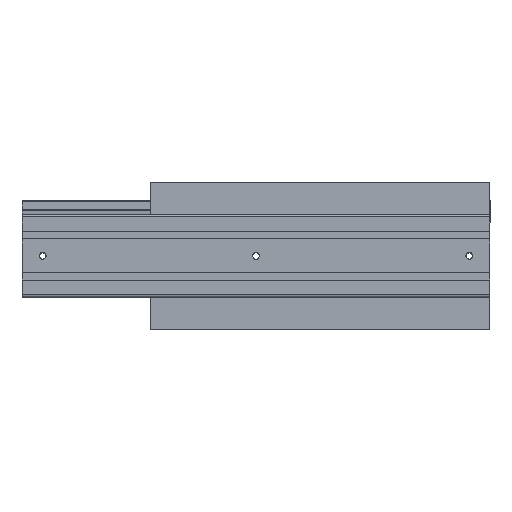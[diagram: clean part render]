
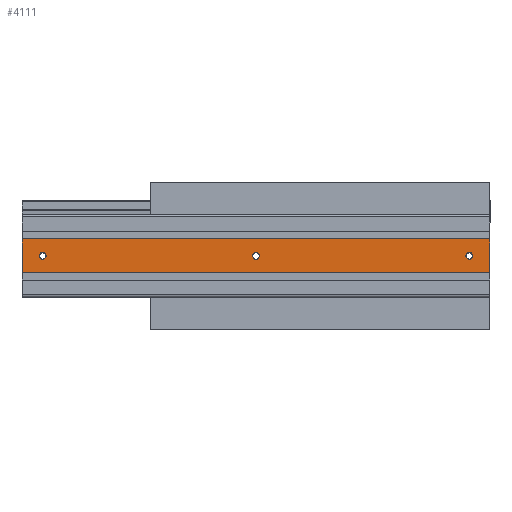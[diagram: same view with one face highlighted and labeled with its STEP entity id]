
A CAD part, top view. The second image highlights one B-rep face of the part: STEP entity #4111.
In plain terms, the highlighted planar face has unit normal (0, 0, 1).
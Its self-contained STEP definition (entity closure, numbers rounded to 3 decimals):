
#562 = VERTEX_POINT ( 'NONE', #22411 ) ;
#769 = DIRECTION ( 'NONE',  ( 0., 0., 1. ) ) ;
#780 = CARTESIAN_POINT ( 'NONE',  ( 236.25, -45., 142.5 ) ) ;
#1267 = VERTEX_POINT ( 'NONE', #5815 ) ;
#1557 = AXIS2_PLACEMENT_3D ( 'NONE', #18101, #5284, #20238 ) ;
#1893 = VECTOR ( 'NONE', #23671, 1000. ) ;
#2335 = CARTESIAN_POINT ( 'NONE',  ( 255., -63.35, 142.5 ) ) ;
#2416 = ORIENTED_EDGE ( 'NONE', *, *, #25800, .F. ) ;
#2505 = DIRECTION ( 'NONE',  ( 0., 0., 1. ) ) ;
#2555 = VERTEX_POINT ( 'NONE', #20384 ) ;
#3042 = CARTESIAN_POINT ( 'NONE',  ( -228.75, -45., 142.5 ) ) ;
#3114 = PLANE ( 'NONE',  #13378 ) ;
#3200 = CARTESIAN_POINT ( 'NONE',  ( -232.5, -45., 142.5 ) ) ;
#3534 = CARTESIAN_POINT ( 'NONE',  ( 232.5, -45., 142.5 ) ) ;
#4111 = ADVANCED_FACE ( 'NONE', ( #14929, #18636, #12916, #7249 ), #3114, .F. ) ;
#4326 = AXIS2_PLACEMENT_3D ( 'NONE', #15299, #2505, #17458 ) ;
#4335 = EDGE_CURVE ( 'NONE', #5888, #12835, #8224, .T. ) ;
#4582 = LINE ( 'NONE', #22873, #26673 ) ;
#5215 = ORIENTED_EDGE ( 'NONE', *, *, #12558, .F. ) ;
#5284 = DIRECTION ( 'NONE',  ( 0., 0., 1. ) ) ;
#5349 = DIRECTION ( 'NONE',  ( 1., 0., 0. ) ) ;
#5361 = VECTOR ( 'NONE', #19601, 1000. ) ;
#5675 = DIRECTION ( 'NONE',  ( 1., 0., 0. ) ) ;
#5711 = CARTESIAN_POINT ( 'NONE',  ( -255., -63.35, 142.5 ) ) ;
#5815 = CARTESIAN_POINT ( 'NONE',  ( -255., -26.65, 142.5 ) ) ;
#5888 = VERTEX_POINT ( 'NONE', #8665 ) ;
#6709 = LINE ( 'NONE', #23934, #5361 ) ;
#7096 = CIRCLE ( 'NONE', #1557, 3.75 ) ;
#7249 = FACE_OUTER_BOUND ( 'NONE', #26363, .T. ) ;
#7333 = CARTESIAN_POINT ( 'NONE',  ( -232.5, -45., 142.5 ) ) ;
#7434 = EDGE_LOOP ( 'NONE', ( #11798, #25974 ) ) ;
#7934 = CIRCLE ( 'NONE', #4326, 3.75 ) ;
#8224 = LINE ( 'NONE', #2335, #1893 ) ;
#8306 = CIRCLE ( 'NONE', #11225, 3.75 ) ;
#8618 = ORIENTED_EDGE ( 'NONE', *, *, #23788, .F. ) ;
#8665 = CARTESIAN_POINT ( 'NONE',  ( 255., -63.35, 142.5 ) ) ;
#9143 = EDGE_LOOP ( 'NONE', ( #21147, #8618 ) ) ;
#9271 = CARTESIAN_POINT ( 'NONE',  ( 3.75, -45., 142.5 ) ) ;
#9379 = EDGE_CURVE ( 'NONE', #18535, #13172, #26039, .T. ) ;
#9468 = DIRECTION ( 'NONE',  ( 1., 0., 0. ) ) ;
#9554 = DIRECTION ( 'NONE',  ( 0., 0., -1. ) ) ;
#9646 = CARTESIAN_POINT ( 'NONE',  ( 228.75, -45., 142.5 ) ) ;
#11225 = AXIS2_PLACEMENT_3D ( 'NONE', #13524, #769, #15701 ) ;
#11782 = AXIS2_PLACEMENT_3D ( 'NONE', #3534, #18492, #5675 ) ;
#11798 = ORIENTED_EDGE ( 'NONE', *, *, #14595, .F. ) ;
#12558 = EDGE_CURVE ( 'NONE', #17548, #5888, #6709, .T. ) ;
#12835 = VERTEX_POINT ( 'NONE', #5711 ) ;
#12916 = FACE_BOUND ( 'NONE', #9143, .T. ) ;
#13172 = VERTEX_POINT ( 'NONE', #9646 ) ;
#13378 = AXIS2_PLACEMENT_3D ( 'NONE', #26605, #9554, #24570 ) ;
#13524 = CARTESIAN_POINT ( 'NONE',  ( 0., -45., 142.5 ) ) ;
#14164 = EDGE_CURVE ( 'NONE', #2555, #21781, #7934, .T. ) ;
#14370 = CIRCLE ( 'NONE', #23935, 3.75 ) ;
#14595 = EDGE_CURVE ( 'NONE', #14602, #562, #19308, .T. ) ;
#14602 = VERTEX_POINT ( 'NONE', #3042 ) ;
#14859 = LINE ( 'NONE', #25455, #24959 ) ;
#14929 = FACE_BOUND ( 'NONE', #7434, .T. ) ;
#15299 = CARTESIAN_POINT ( 'NONE',  ( 0., -45., 142.5 ) ) ;
#15701 = DIRECTION ( 'NONE',  ( 1., 0., 0. ) ) ;
#16803 = DIRECTION ( 'NONE',  ( 0., -1., 0. ) ) ;
#16826 = EDGE_CURVE ( 'NONE', #562, #14602, #14370, .T. ) ;
#17458 = DIRECTION ( 'NONE',  ( 1., 0., 0. ) ) ;
#17548 = VERTEX_POINT ( 'NONE', #23988 ) ;
#18101 = CARTESIAN_POINT ( 'NONE',  ( 232.5, -45., 142.5 ) ) ;
#18163 = DIRECTION ( 'NONE',  ( 0., 0., 1. ) ) ;
#18492 = DIRECTION ( 'NONE',  ( 0., 0., 1. ) ) ;
#18535 = VERTEX_POINT ( 'NONE', #780 ) ;
#18636 = FACE_BOUND ( 'NONE', #26850, .T. ) ;
#19308 = CIRCLE ( 'NONE', #26751, 3.75 ) ;
#19601 = DIRECTION ( 'NONE',  ( 0., -1., 0. ) ) ;
#19785 = EDGE_CURVE ( 'NONE', #17548, #1267, #4582, .T. ) ;
#20238 = DIRECTION ( 'NONE',  ( 1., 0., 0. ) ) ;
#20384 = CARTESIAN_POINT ( 'NONE',  ( -3.75, -45., 142.5 ) ) ;
#20532 = EDGE_CURVE ( 'NONE', #1267, #12835, #14859, .T. ) ;
#20793 = DIRECTION ( 'NONE',  ( -1., 0., 0. ) ) ;
#21147 = ORIENTED_EDGE ( 'NONE', *, *, #9379, .F. ) ;
#21781 = VERTEX_POINT ( 'NONE', #9271 ) ;
#22109 = ORIENTED_EDGE ( 'NONE', *, *, #4335, .F. ) ;
#22308 = DIRECTION ( 'NONE',  ( 0., 0., 1. ) ) ;
#22411 = CARTESIAN_POINT ( 'NONE',  ( -236.25, -45., 142.5 ) ) ;
#22873 = CARTESIAN_POINT ( 'NONE',  ( 255., -26.65, 142.5 ) ) ;
#23671 = DIRECTION ( 'NONE',  ( -1., 0., 0. ) ) ;
#23788 = EDGE_CURVE ( 'NONE', #13172, #18535, #7096, .T. ) ;
#23934 = CARTESIAN_POINT ( 'NONE',  ( 255., -26.65, 142.5 ) ) ;
#23935 = AXIS2_PLACEMENT_3D ( 'NONE', #3200, #18163, #5349 ) ;
#23988 = CARTESIAN_POINT ( 'NONE',  ( 255., -26.65, 142.5 ) ) ;
#24570 = DIRECTION ( 'NONE',  ( 0., 1., 0. ) ) ;
#24959 = VECTOR ( 'NONE', #16803, 1000. ) ;
#25032 = ORIENTED_EDGE ( 'NONE', *, *, #19785, .T. ) ;
#25455 = CARTESIAN_POINT ( 'NONE',  ( -255., -26.65, 142.5 ) ) ;
#25800 = EDGE_CURVE ( 'NONE', #21781, #2555, #8306, .T. ) ;
#25974 = ORIENTED_EDGE ( 'NONE', *, *, #16826, .F. ) ;
#26039 = CIRCLE ( 'NONE', #11782, 3.75 ) ;
#26363 = EDGE_LOOP ( 'NONE', ( #27212, #22109, #5215, #25032 ) ) ;
#26605 = CARTESIAN_POINT ( 'NONE',  ( 255., -26.65, 142.5 ) ) ;
#26673 = VECTOR ( 'NONE', #20793, 1000. ) ;
#26751 = AXIS2_PLACEMENT_3D ( 'NONE', #7333, #22308, #9468 ) ;
#26850 = EDGE_LOOP ( 'NONE', ( #2416, #27745 ) ) ;
#27212 = ORIENTED_EDGE ( 'NONE', *, *, #20532, .T. ) ;
#27745 = ORIENTED_EDGE ( 'NONE', *, *, #14164, .F. ) ;
